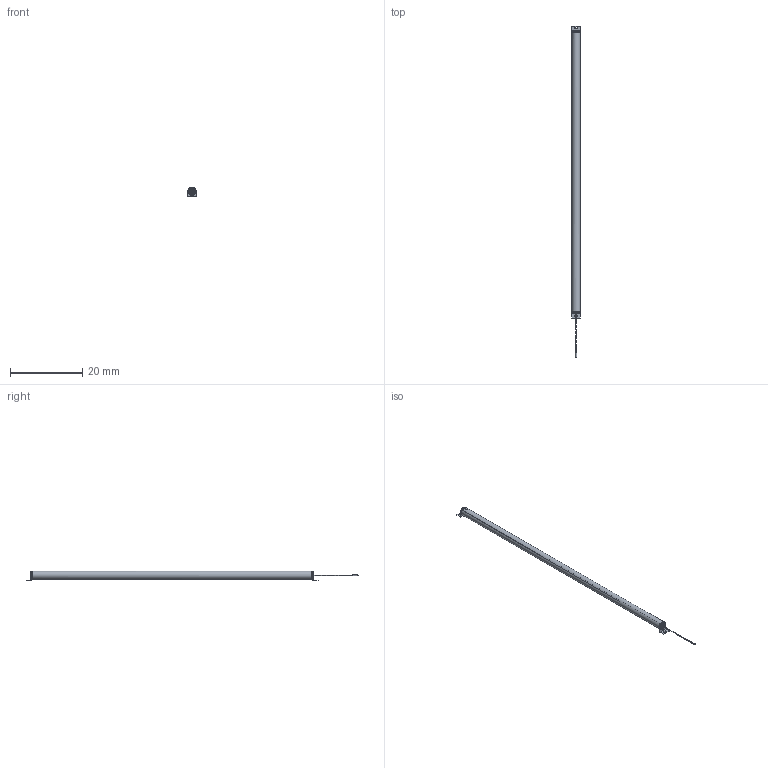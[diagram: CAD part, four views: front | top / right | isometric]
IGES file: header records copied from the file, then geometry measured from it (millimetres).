
Start section:  Autodesk DirectConnect version 7.0.27.0 ---- IGES version 5.3
Global section: file name: C:\ACADFILES\SS_PYLONS\CUSTOMER_FILES\SS-76-PYLON_3D_SMB_PT.iges; native system: Autodesk DirectConnect 7.0.27.0; preprocessor: 7.0.27.0; author: ENGINEERMAIN; organization: Unknown; date: 20150810.130238; units: millimetre
Bounding box: 2.26 x 92.01 x 2.75 mm (x, y, z)
Surface area: 2231.2 mm2 (no closed solid volume)
Topology: 0 solids, 0 shells, 772 faces, 3944 edges, 3944 vertices
Faces by surface type: bspline 772
